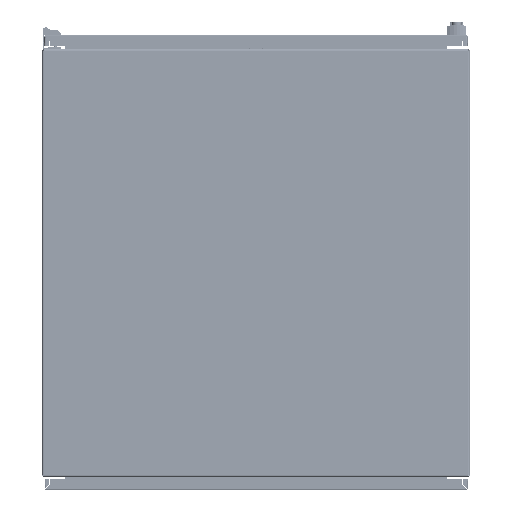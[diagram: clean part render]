
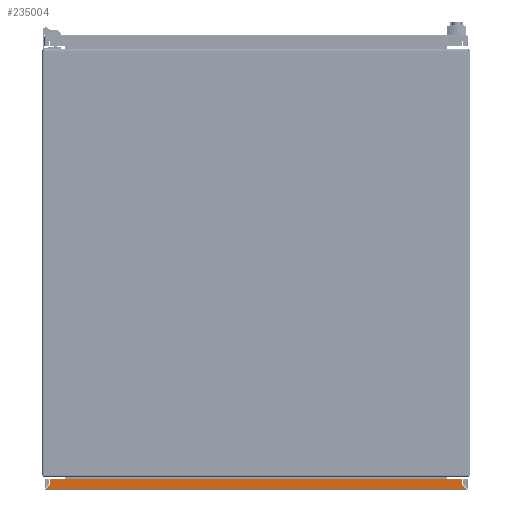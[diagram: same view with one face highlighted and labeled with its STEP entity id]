
A CAD part, front view. The second image highlights one B-rep face of the part: STEP entity #235004.
In plain terms, the highlighted planar face has unit normal (0, -1, 0).
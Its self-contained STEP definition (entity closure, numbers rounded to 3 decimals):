
#235004 = ADVANCED_FACE ( 'NONE', ( #244163 ), #244101, .F. ) ;
#235008 = ORIENTED_EDGE ( 'NONE', *, *, #235009, .F. ) ;
#235009 = EDGE_CURVE ( 'NONE', #235080, #235011, #244069, .T. ) ;
#235011 = VERTEX_POINT ( 'NONE', #244058 ) ;
#235012 = ORIENTED_EDGE ( 'NONE', *, *, #235079, .T. ) ;
#235014 = ORIENTED_EDGE ( 'NONE', *, *, #235015, .T. ) ;
#235015 = EDGE_CURVE ( 'NONE', #235084, #235018, #244044, .T. ) ;
#235018 = VERTEX_POINT ( 'NONE', #244296 ) ;
#235020 = ORIENTED_EDGE ( 'NONE', *, *, #235022, .T. ) ;
#235022 = EDGE_CURVE ( 'NONE', #235018, #235024, #244288, .T. ) ;
#235024 = VERTEX_POINT ( 'NONE', #244279 ) ;
#235027 = ORIENTED_EDGE ( 'NONE', *, *, #235163, .F. ) ;
#235070 = EDGE_LOOP ( 'NONE', ( #235008, #235012, #235014, #235020, #235027, #235168 ) ) ;
#235079 = EDGE_CURVE ( 'NONE', #235080, #235084, #244337, .T. ) ;
#235080 = VERTEX_POINT ( 'NONE', #244325 ) ;
#235084 = VERTEX_POINT ( 'NONE', #244323 ) ;
#235163 = EDGE_CURVE ( 'NONE', #235166, #235024, #244771, .T. ) ;
#235166 = VERTEX_POINT ( 'NONE', #244757 ) ;
#235168 = ORIENTED_EDGE ( 'NONE', *, *, #235169, .F. ) ;
#235169 = EDGE_CURVE ( 'NONE', #235011, #235166, #244745, .T. ) ;
#243034 = CARTESIAN_POINT ( 'NONE',  ( -386.083, 21.5, -405. ) ) ;
#244044 = LINE ( 'NONE', #243034, #244300 ) ;
#244058 = CARTESIAN_POINT ( 'NONE',  ( 386.383, 21.5, -414.81 ) ) ;
#244063 = DIRECTION ( 'NONE',  ( 0., 0., -1. ) ) ;
#244065 = VECTOR ( 'NONE', #244063, 1000. ) ;
#244067 = CARTESIAN_POINT ( 'NONE',  ( 386.383, 21.5, -405. ) ) ;
#244069 = LINE ( 'NONE', #244067, #244065 ) ;
#244080 = DIRECTION ( 'NONE',  ( 0., 0., -1. ) ) ;
#244082 = DIRECTION ( 'NONE',  ( 0., 1., 0. ) ) ;
#244085 = CARTESIAN_POINT ( 'NONE',  ( 10281.15, 21.5, -405. ) ) ;
#244087 = AXIS2_PLACEMENT_3D ( 'NONE', #244085, #244082, #244080 ) ;
#244101 = PLANE ( 'NONE',  #244087 ) ;
#244163 = FACE_OUTER_BOUND ( 'NONE', #235070, .T. ) ;
#244279 = CARTESIAN_POINT ( 'NONE',  ( -394.173, 21.5, -422.9 ) ) ;
#244282 = DIRECTION ( 'NONE',  ( -0.707, 0., -0.707 ) ) ;
#244284 = VECTOR ( 'NONE', #244282, 1000. ) ;
#244286 = CARTESIAN_POINT ( 'NONE',  ( -386.083, 21.5, -414.81 ) ) ;
#244288 = LINE ( 'NONE', #244286, #244284 ) ;
#244296 = CARTESIAN_POINT ( 'NONE',  ( -386.083, 21.5, -414.81 ) ) ;
#244299 = DIRECTION ( 'NONE',  ( 0., 0., -1. ) ) ;
#244300 = VECTOR ( 'NONE', #244299, 1000. ) ;
#244323 = CARTESIAN_POINT ( 'NONE',  ( -386.083, 21.5, -405. ) ) ;
#244325 = CARTESIAN_POINT ( 'NONE',  ( 386.383, 21.5, -405. ) ) ;
#244329 = DIRECTION ( 'NONE',  ( -1., 0., 0. ) ) ;
#244330 = VECTOR ( 'NONE', #244329, 1000. ) ;
#244334 = CARTESIAN_POINT ( 'NONE',  ( 10281.15, 21.5, -405. ) ) ;
#244337 = LINE ( 'NONE', #244334, #244330 ) ;
#244737 = DIRECTION ( 'NONE',  ( 0.707, 0., -0.707 ) ) ;
#244740 = VECTOR ( 'NONE', #244737, 1000. ) ;
#244744 = CARTESIAN_POINT ( 'NONE',  ( 386.383, 21.5, -414.81 ) ) ;
#244745 = LINE ( 'NONE', #244744, #244740 ) ;
#244757 = CARTESIAN_POINT ( 'NONE',  ( 394.473, 21.5, -422.9 ) ) ;
#244761 = DIRECTION ( 'NONE',  ( -1., 0., 0. ) ) ;
#244763 = VECTOR ( 'NONE', #244761, 1000. ) ;
#244767 = CARTESIAN_POINT ( 'NONE',  ( 10281.15, 21.5, -422.9 ) ) ;
#244771 = LINE ( 'NONE', #244767, #244763 ) ;
